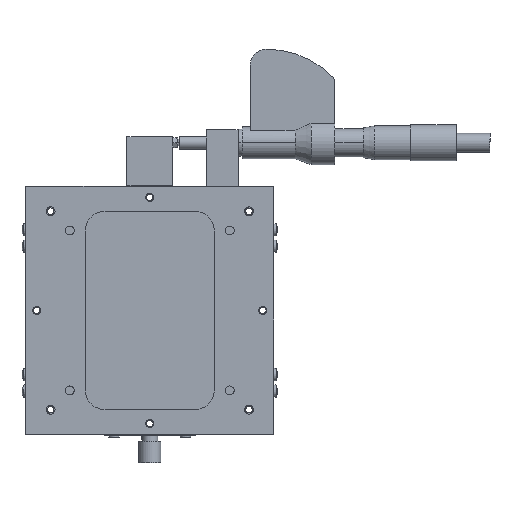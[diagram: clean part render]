
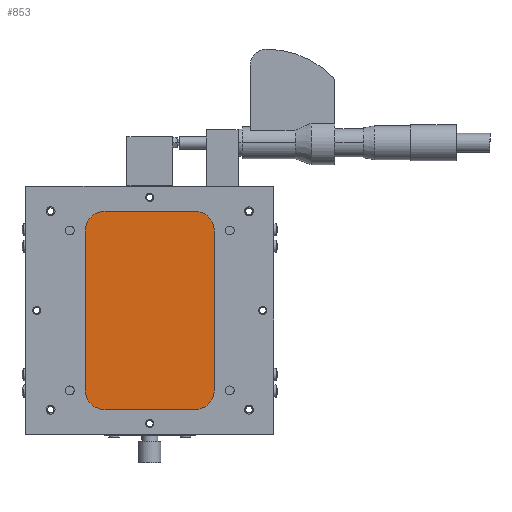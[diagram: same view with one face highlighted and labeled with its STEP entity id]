
A CAD part, front view. The second image highlights one B-rep face of the part: STEP entity #853.
In plain terms, the highlighted planar face has unit normal (0, -1, 0).
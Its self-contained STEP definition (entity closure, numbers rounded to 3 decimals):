
#588 = ORIENTED_EDGE ( 'NONE', *, *, #589, .F. ) ;
#589 = EDGE_CURVE ( 'NONE', #590, #591, #4676, .T. ) ;
#590 = VERTEX_POINT ( 'NONE', #4672 ) ;
#591 = VERTEX_POINT ( 'NONE', #4671 ) ;
#592 = VERTEX_POINT ( 'NONE', #4670 ) ;
#753 = ORIENTED_EDGE ( 'NONE', *, *, #754, .F. ) ;
#754 = EDGE_CURVE ( 'NONE', #755, #910, #5089, .T. ) ;
#755 = VERTEX_POINT ( 'NONE', #5085 ) ;
#756 = ORIENTED_EDGE ( 'NONE', *, *, #757, .F. ) ;
#757 = EDGE_CURVE ( 'NONE', #758, #755, #5084, .T. ) ;
#758 = VERTEX_POINT ( 'NONE', #5079 ) ;
#806 = ORIENTED_EDGE ( 'NONE', *, *, #807, .F. ) ;
#807 = EDGE_CURVE ( 'NONE', #808, #758, #4739, .T. ) ;
#808 = VERTEX_POINT ( 'NONE', #5234 ) ;
#809 = ORIENTED_EDGE ( 'NONE', *, *, #810, .F. ) ;
#810 = EDGE_CURVE ( 'NONE', #811, #808, #5347, .T. ) ;
#811 = VERTEX_POINT ( 'NONE', #5303 ) ;
#812 = ORIENTED_EDGE ( 'NONE', *, *, #816, .F. ) ;
#816 = EDGE_CURVE ( 'NONE', #591, #811, #5271, .T. ) ;
#853 = ADVANCED_FACE ( 'NONE', ( #5398 ), #5396, .T. ) ;
#906 = ORIENTED_EDGE ( 'NONE', *, *, #907, .F. ) ;
#907 = EDGE_CURVE ( 'NONE', #592, #590, #5321, .T. ) ;
#908 = ORIENTED_EDGE ( 'NONE', *, *, #909, .F. ) ;
#909 = EDGE_CURVE ( 'NONE', #910, #592, #5317, .T. ) ;
#910 = VERTEX_POINT ( 'NONE', #5312 ) ;
#925 = EDGE_LOOP ( 'NONE', ( #588, #906, #908, #753, #756, #806, #809, #812 ) ) ;
#4670 = CARTESIAN_POINT ( 'NONE',  ( 22.5, 0.5, -50. ) ) ;
#4671 = CARTESIAN_POINT ( 'NONE',  ( -32.5, 0.5, -40. ) ) ;
#4672 = CARTESIAN_POINT ( 'NONE',  ( -22.5, 0.5, -50. ) ) ;
#4673 = DIRECTION ( 'NONE',  ( 0., 0., 1. ) ) ;
#4674 = DIRECTION ( 'NONE',  ( 0., 1., 0. ) ) ;
#4675 = AXIS2_PLACEMENT_3D ( 'NONE', #4804, #4674, #4673 ) ;
#4676 = CIRCLE ( 'NONE', #4675, 10. ) ;
#4731 = DIRECTION ( 'NONE',  ( 1., 0., 0. ) ) ;
#4732 = VECTOR ( 'NONE', #4731, 1000. ) ;
#4733 = CARTESIAN_POINT ( 'NONE',  ( 22.5, 0.5, 50. ) ) ;
#4739 = LINE ( 'NONE', #4733, #4732 ) ;
#4804 = CARTESIAN_POINT ( 'NONE',  ( -22.5, 0.5, -40. ) ) ;
#5079 = CARTESIAN_POINT ( 'NONE',  ( 22.5, 0.5, 50. ) ) ;
#5080 = DIRECTION ( 'NONE',  ( 0., 0., 1. ) ) ;
#5081 = DIRECTION ( 'NONE',  ( 0., 1., 0. ) ) ;
#5082 = CARTESIAN_POINT ( 'NONE',  ( 22.5, 0.5, 40. ) ) ;
#5083 = AXIS2_PLACEMENT_3D ( 'NONE', #5082, #5081, #5080 ) ;
#5084 = CIRCLE ( 'NONE', #5083, 10. ) ;
#5085 = CARTESIAN_POINT ( 'NONE',  ( 32.5, 0.5, 40. ) ) ;
#5086 = DIRECTION ( 'NONE',  ( 0., 0., -1. ) ) ;
#5087 = VECTOR ( 'NONE', #5086, 1000. ) ;
#5088 = CARTESIAN_POINT ( 'NONE',  ( 32.5, 0.5, -40. ) ) ;
#5089 = LINE ( 'NONE', #5088, #5087 ) ;
#5234 = CARTESIAN_POINT ( 'NONE',  ( -22.5, 0.5, 50. ) ) ;
#5238 = VECTOR ( 'NONE', #5269, 1000. ) ;
#5269 = DIRECTION ( 'NONE',  ( 0., 0., 1. ) ) ;
#5270 = CARTESIAN_POINT ( 'NONE',  ( -32.5, 0.5, -40. ) ) ;
#5271 = LINE ( 'NONE', #5270, #5238 ) ;
#5303 = CARTESIAN_POINT ( 'NONE',  ( -32.5, 0.5, 40. ) ) ;
#5312 = CARTESIAN_POINT ( 'NONE',  ( 32.5, 0.5, -40. ) ) ;
#5313 = DIRECTION ( 'NONE',  ( 0., 0., 1. ) ) ;
#5314 = DIRECTION ( 'NONE',  ( 0., 1., 0. ) ) ;
#5315 = CARTESIAN_POINT ( 'NONE',  ( 22.5, 0.5, -40. ) ) ;
#5316 = AXIS2_PLACEMENT_3D ( 'NONE', #5315, #5314, #5313 ) ;
#5317 = CIRCLE ( 'NONE', #5316, 10. ) ;
#5318 = DIRECTION ( 'NONE',  ( -1., 0., 0. ) ) ;
#5319 = VECTOR ( 'NONE', #5318, 1000. ) ;
#5320 = CARTESIAN_POINT ( 'NONE',  ( 22.5, 0.5, -50. ) ) ;
#5321 = LINE ( 'NONE', #5320, #5319 ) ;
#5344 = DIRECTION ( 'NONE',  ( 0., 1., 0. ) ) ;
#5345 = CARTESIAN_POINT ( 'NONE',  ( -22.5, 0.5, 40. ) ) ;
#5346 = AXIS2_PLACEMENT_3D ( 'NONE', #5345, #5344, #5348 ) ;
#5347 = CIRCLE ( 'NONE', #5346, 10. ) ;
#5348 = DIRECTION ( 'NONE',  ( 0., 0., 1. ) ) ;
#5392 = DIRECTION ( 'NONE',  ( 0., 0., 1. ) ) ;
#5393 = DIRECTION ( 'NONE',  ( 0., -1., 0. ) ) ;
#5394 = CARTESIAN_POINT ( 'NONE',  ( -22.5, 0.5, -40. ) ) ;
#5395 = AXIS2_PLACEMENT_3D ( 'NONE', #5394, #5393, #5392 ) ;
#5396 = PLANE ( 'NONE',  #5395 ) ;
#5398 = FACE_OUTER_BOUND ( 'NONE', #925, .T. ) ;
